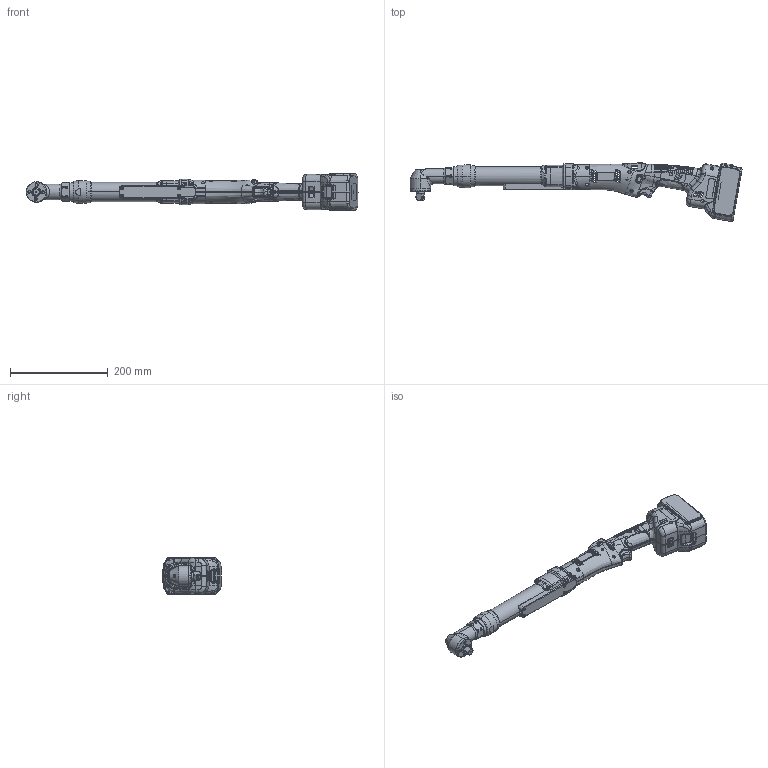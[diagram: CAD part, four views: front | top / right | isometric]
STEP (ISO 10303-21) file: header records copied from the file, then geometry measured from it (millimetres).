
FILE_DESCRIPTION (( 'STEP AP214' ), '1' );
FILE_NAME ('ABN-CTA90_ _.STEP', '2018-03-13T15:39:40', ( 'AIMCO' ), ( '' ), 'SwSTEP 2.0', 'SolidWorks 2017', '' );
FILE_SCHEMA (( 'AUTOMOTIVE_DESIGN' ));
Length unit declared in the file: inch
Products named in the file (1): ABN-CTA90_ _
Bounding box: 679.41 x 120.2 x 75.18 mm (x, y, z)
Surface area: 199426 mm2 (no closed solid volume)
Topology: 0 solids, 62 shells, 1924 faces, 7035 edges, 4930 vertices
Faces by surface type: bspline 741, plane 430, cylinder 343, cone 287, torus 117, sphere 6
Entity records: 233315 total; most frequent: CARTESIAN_POINT 159232, ORIENTED_EDGE 10873, DIRECTION 7380, EDGE_CURVE 7025, VERTEX_POINT 4930, B_SPLINE_CURVE_WITH_KNOTS 3341, AXIS2_PLACEMENT_3D 2718, EDGE_LOOP 2053
